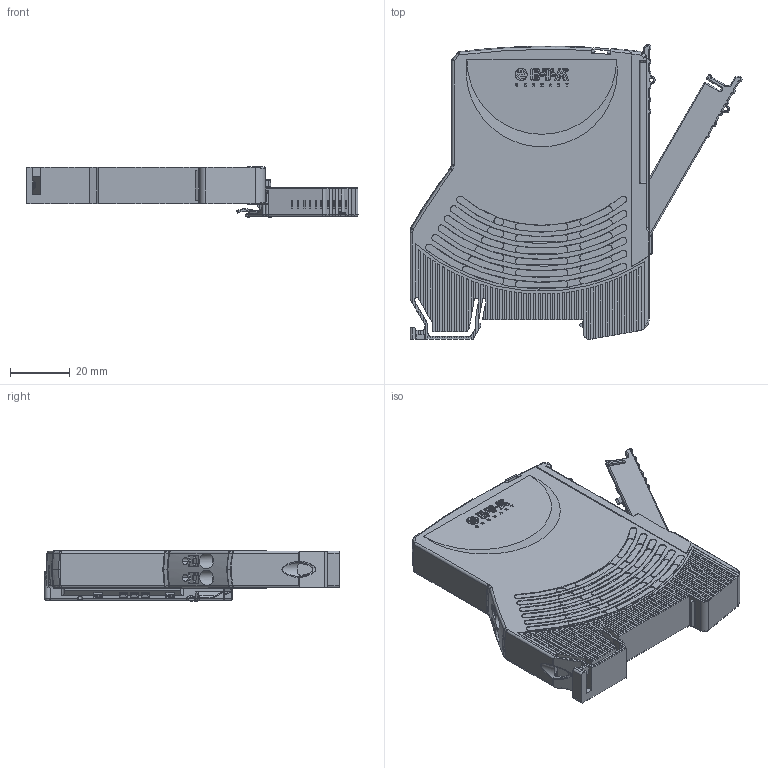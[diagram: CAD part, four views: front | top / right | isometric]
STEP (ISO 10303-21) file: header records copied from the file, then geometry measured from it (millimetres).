
FILE_DESCRIPTION((''),'2;1');
FILE_NAME('T-REX12-TA2-1XX_ASM','2016-04-22T',('hroth'),(''),'PRO/ENGINEER BY PARAMETRIC TECHNOLOGY CORPORATION, 2014200','PRO/ENGINEER BY PARAMETRIC TECHNOLOGY CORPORATION, 2014200','');
FILE_SCHEMA(('AUTOMOTIVE_DESIGN { 1 0 10303 214 1 1 1 1 }'));
Products named in the file (4): T-REX12-TA2-1XX_GEH; T-REX12-TXX_TASTER; T-REX12-TXX_HEB-SI1; T-REX12-TA2-1XX_ASM
Assembly tree (5 placements, depth 2):
  T-REX12-TA2-1XX_ASM
    T-REX12-TA2-1XX_GEH
    T-REX12-TXX_TASTER  x2
    T-REX12-TXX_HEB-SI1  x2
Bounding box: 110.9 x 98.5 x 16.9 mm (x, y, z)
Volume: 80662 mm3; surface area: 29817 mm2
Topology: 5 solids, 5 shells, 2767 faces, 7551 edges, 4862 vertices
Faces by surface type: plane 1638, cylinder 816, bspline 113, torus 99, extrusion 41, sphere 30, cone 30
Entity records: 88591 total; most frequent: CARTESIAN_POINT 21760, ORIENTED_EDGE 12662, DIRECTION 11884, EDGE_CURVE 6331, VECTOR 4284, LINE 4243, VERTEX_POINT 4109, AXIS2_PLACEMENT_3D 3800
